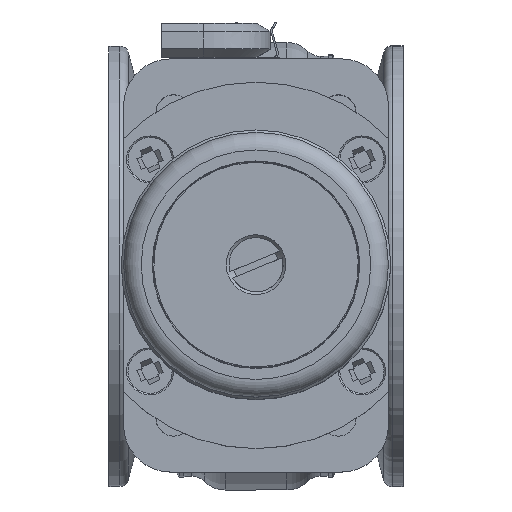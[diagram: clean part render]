
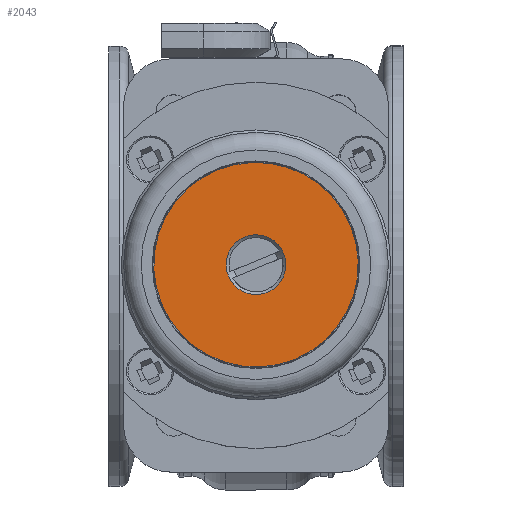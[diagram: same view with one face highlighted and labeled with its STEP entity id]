
A CAD part, top view. The second image highlights one B-rep face of the part: STEP entity #2043.
In plain terms, the highlighted planar face has unit normal (0, 0, 1) as drawn and (1, 0, 0) by its records, which use the part's own axes.
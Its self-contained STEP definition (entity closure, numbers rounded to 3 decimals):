
#2043 = ADVANCED_FACE( '', ( #4028, #4029 ), #4030, .T. );
#4028 = FACE_BOUND( '', #10986, .T. );
#4029 = FACE_OUTER_BOUND( '', #10987, .T. );
#4030 = PLANE( '', #10988 );
#10986 = EDGE_LOOP( '', ( #15584 ) );
#10987 = EDGE_LOOP( '', ( #15585 ) );
#10988 = AXIS2_PLACEMENT_3D( '', #15586, #15587, #15588 );
#15584 = ORIENTED_EDGE( '', *, *, #17205, .T. );
#15585 = ORIENTED_EDGE( '', *, *, #16524, .F. );
#15586 = CARTESIAN_POINT( '', ( 12.1, 17.375, 0. ) );
#15587 = DIRECTION( '', ( 1., 0., 0. ) );
#15588 = DIRECTION( '', ( 0., 1., 0. ) );
#16524 = EDGE_CURVE( '', #18958, #18958, #18959, .T. );
#17205 = EDGE_CURVE( '', #19873, #19873, #19874, .T. );
#18958 = VERTEX_POINT( '', #24111 );
#18959 = CIRCLE( '', #24112, 17.375 );
#19873 = VERTEX_POINT( '', #26629 );
#19874 = CIRCLE( '', #26630, 5.075 );
#24111 = CARTESIAN_POINT( '', ( 12.1, 0., 17.375 ) );
#24112 = AXIS2_PLACEMENT_3D( '', #28222, #28223, #28224 );
#26629 = CARTESIAN_POINT( '', ( 12.1, 0., 5.075 ) );
#26630 = AXIS2_PLACEMENT_3D( '', #28878, #28879, #28880 );
#28222 = CARTESIAN_POINT( '', ( 12.1, 0., 0. ) );
#28223 = DIRECTION( '', ( -1., 0., 0. ) );
#28224 = DIRECTION( '', ( 0., 0., 1. ) );
#28878 = CARTESIAN_POINT( '', ( 12.1, 0., 0. ) );
#28879 = DIRECTION( '', ( -1., 0., 0. ) );
#28880 = DIRECTION( '', ( 0., 0., 1. ) );
